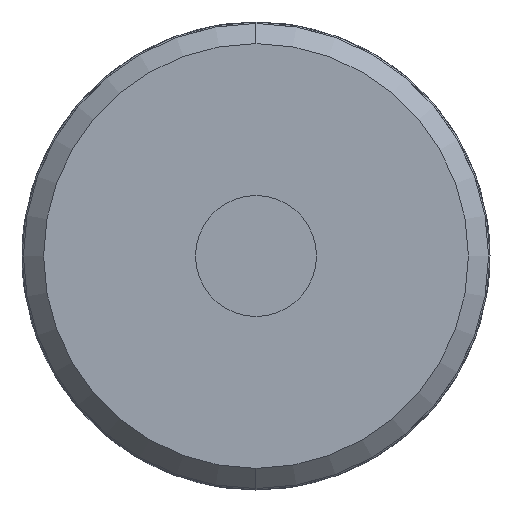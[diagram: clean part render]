
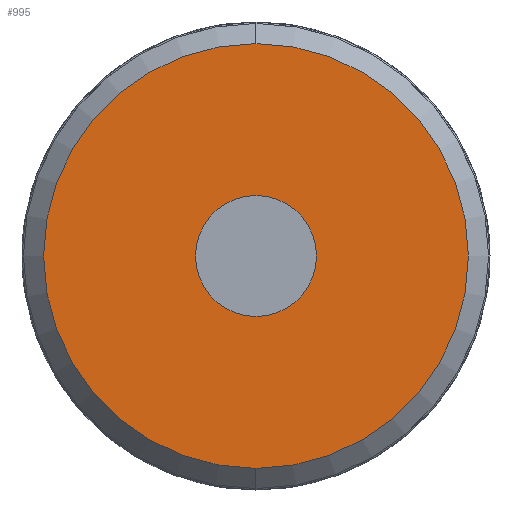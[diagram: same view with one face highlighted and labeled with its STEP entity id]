
A CAD part, left-side view. The second image highlights one B-rep face of the part: STEP entity #995.
In plain terms, the highlighted planar face has unit normal (-1, 0, 0).
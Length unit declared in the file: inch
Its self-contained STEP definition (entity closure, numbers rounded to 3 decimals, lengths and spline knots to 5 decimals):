
#30 = EDGE_CURVE ( 'NONE', #1863, #1334, #1464, .T. ) ;
#99 = AXIS2_PLACEMENT_3D ( 'NONE', #1948, #1949, #1950 ) ;
#120 = AXIS2_PLACEMENT_3D ( 'NONE', #2199, #2197, #2196 ) ;
#177 = EDGE_CURVE ( 'NONE', #1851, #1821, #532, .T. ) ;
#183 = EDGE_CURVE ( 'NONE', #1821, #1851, #534, .T. ) ;
#191 = EDGE_CURVE ( 'NONE', #1334, #1863, #539, .T. ) ;
#303 = AXIS2_PLACEMENT_3D ( 'NONE', #2083, #2138, #2139 ) ;
#304 = AXIS2_PLACEMENT_3D ( 'NONE', #2123, #2084, #2082 ) ;
#305 = AXIS2_PLACEMENT_3D ( 'NONE', #2089, #2094, #2087 ) ;
#532 = CIRCLE ( 'NONE', #305, 0.658 ) ;
#534 = CIRCLE ( 'NONE', #304, 0.658 ) ;
#539 = CIRCLE ( 'NONE', #303, 0.1875 ) ;
#750 = FACE_OUTER_BOUND ( 'NONE', #1318, .T. ) ;
#756 = FACE_BOUND ( 'NONE', #1316, .T. ) ;
#828 = CARTESIAN_POINT ( 'NONE',  ( -3.45379, -0.70993, 0. ) ) ;
#862 = CARTESIAN_POINT ( 'NONE',  ( -3.45379, -0.52243, -0.658 ) ) ;
#890 = CARTESIAN_POINT ( 'NONE',  ( -3.45379, -0.52243, 0.658 ) ) ;
#901 = CARTESIAN_POINT ( 'NONE',  ( -3.45379, -0.33493, 0. ) ) ;
#995 = ADVANCED_FACE ( 'NONE', ( #750, #756 ), #2150, .T. ) ;
#1316 = EDGE_LOOP ( 'NONE', ( #1578, #1588 ) ) ;
#1318 = EDGE_LOOP ( 'NONE', ( #1582, #1581 ) ) ;
#1334 = VERTEX_POINT ( 'NONE', #828 ) ;
#1464 = CIRCLE ( 'NONE', #99, 0.1875 ) ;
#1578 = ORIENTED_EDGE ( 'NONE', *, *, #191, .F. ) ;
#1581 = ORIENTED_EDGE ( 'NONE', *, *, #177, .T. ) ;
#1582 = ORIENTED_EDGE ( 'NONE', *, *, #183, .T. ) ;
#1588 = ORIENTED_EDGE ( 'NONE', *, *, #30, .F. ) ;
#1821 = VERTEX_POINT ( 'NONE', #862 ) ;
#1851 = VERTEX_POINT ( 'NONE', #890 ) ;
#1863 = VERTEX_POINT ( 'NONE', #901 ) ;
#1948 = CARTESIAN_POINT ( 'NONE',  ( -3.45379, -0.52243, 0. ) ) ;
#1949 = DIRECTION ( 'NONE',  ( -1., 0., 0. ) ) ;
#1950 = DIRECTION ( 'NONE',  ( 0., 0., 1. ) ) ;
#2082 = DIRECTION ( 'NONE',  ( 0., 0., -1. ) ) ;
#2083 = CARTESIAN_POINT ( 'NONE',  ( -3.45379, -0.52243, 0. ) ) ;
#2084 = DIRECTION ( 'NONE',  ( -1., 0., 0. ) ) ;
#2087 = DIRECTION ( 'NONE',  ( 0., 0., -1. ) ) ;
#2089 = CARTESIAN_POINT ( 'NONE',  ( -3.45379, -0.52243, 0. ) ) ;
#2094 = DIRECTION ( 'NONE',  ( -1., 0., 0. ) ) ;
#2123 = CARTESIAN_POINT ( 'NONE',  ( -3.45379, -0.52243, 0. ) ) ;
#2138 = DIRECTION ( 'NONE',  ( -1., 0., 0. ) ) ;
#2139 = DIRECTION ( 'NONE',  ( 0., 0., 1. ) ) ;
#2150 = PLANE ( 'NONE',  #120 ) ;
#2196 = DIRECTION ( 'NONE',  ( 0., 0., 1. ) ) ;
#2197 = DIRECTION ( 'NONE',  ( -1., 0., 0. ) ) ;
#2199 = CARTESIAN_POINT ( 'NONE',  ( -3.45379, -1.18832, -0.6659 ) ) ;
